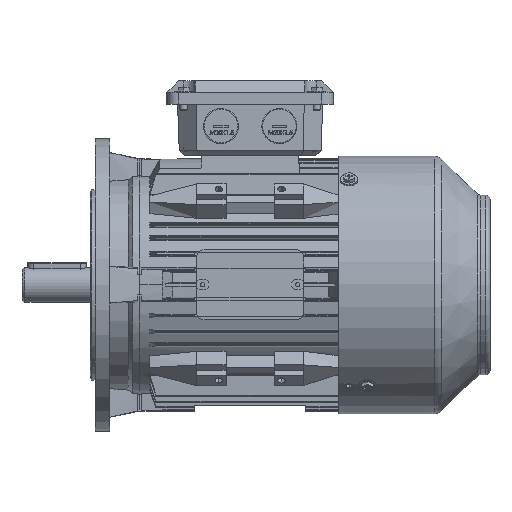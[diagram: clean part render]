
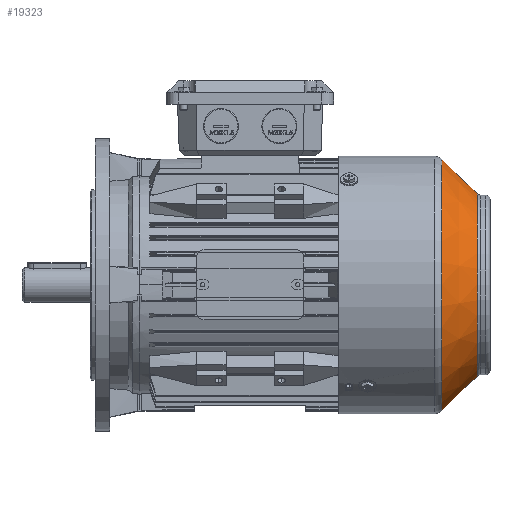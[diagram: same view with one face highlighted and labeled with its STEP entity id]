
A CAD part, top view. The second image highlights one B-rep face of the part: STEP entity #19323.
In plain terms, the highlighted conical face has half-angle 44.465 degrees and reference radius 62.359 mm.
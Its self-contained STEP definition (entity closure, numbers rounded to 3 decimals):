
#955 = AXIS2_PLACEMENT_3D ( 'NONE', #50495, #36515, #35398 ) ;
#1405 = EDGE_CURVE ( 'NONE', #69599, #88805, #4846, .T. ) ;
#1989 = AXIS2_PLACEMENT_3D ( 'NONE', #64781, #72261, #2224 ) ;
#2084 = CARTESIAN_POINT ( 'NONE',  ( 159.84, -1.659, 0. ) ) ;
#2224 = DIRECTION ( 'NONE',  ( 0., 1., -0.002 ) ) ;
#4340 = CARTESIAN_POINT ( 'NONE',  ( 135.757, 84.337, -0.213 ) ) ;
#4846 = LINE ( 'NONE', #84028, #77451 ) ;
#7170 = ORIENTED_EDGE ( 'NONE', *, *, #49737, .F. ) ;
#9524 = FACE_OUTER_BOUND ( 'NONE', #105111, .T. ) ;
#14150 = AXIS2_PLACEMENT_3D ( 'NONE', #2084, #54349, #46886 ) ;
#15429 = EDGE_CURVE ( 'NONE', #36352, #103383, #80246, .T. ) ;
#18111 = EDGE_CURVE ( 'NONE', #69599, #36352, #39888, .T. ) ;
#19323 = ADVANCED_FACE ( 'NONE', ( #9524 ), #50470, .T. ) ;
#29895 = VECTOR ( 'NONE', #81952, 1000. ) ;
#30294 = ORIENTED_EDGE ( 'NONE', *, *, #18111, .T. ) ;
#35398 = DIRECTION ( 'NONE',  ( 0., 1., -0.002 ) ) ;
#36352 = VERTEX_POINT ( 'NONE', #105624 ) ;
#36515 = DIRECTION ( 'NONE',  ( -1., 0., 0. ) ) ;
#39888 = CIRCLE ( 'NONE', #14150, 62.359 ) ;
#43145 = DIRECTION ( 'NONE',  ( -0.714, -0.7, 0.002 ) ) ;
#45816 = CARTESIAN_POINT ( 'NONE',  ( 159.84, 60.7, -0.154 ) ) ;
#46886 = DIRECTION ( 'NONE',  ( 0., 1., -0.002 ) ) ;
#49737 = EDGE_CURVE ( 'NONE', #88805, #103383, #71619, .T. ) ;
#50470 = CONICAL_SURFACE ( 'NONE', #955, 62.359, 0.776 ) ;
#50495 = CARTESIAN_POINT ( 'NONE',  ( 159.84, -1.659, 0. ) ) ;
#54349 = DIRECTION ( 'NONE',  ( -1., 0., 0. ) ) ;
#60739 = CARTESIAN_POINT ( 'NONE',  ( 159.84, -64.017, 0.154 ) ) ;
#61680 = ORIENTED_EDGE ( 'NONE', *, *, #1405, .F. ) ;
#64781 = CARTESIAN_POINT ( 'NONE',  ( 135.757, -1.659, 0. ) ) ;
#69599 = VERTEX_POINT ( 'NONE', #60739 ) ;
#71619 = CIRCLE ( 'NONE', #1989, 85.996 ) ;
#72261 = DIRECTION ( 'NONE',  ( -1., 0., 0. ) ) ;
#77451 = VECTOR ( 'NONE', #43145, 1000. ) ;
#80246 = LINE ( 'NONE', #45816, #29895 ) ;
#81952 = DIRECTION ( 'NONE',  ( -0.714, 0.7, -0.002 ) ) ;
#82845 = CARTESIAN_POINT ( 'NONE',  ( 135.757, -87.654, 0.213 ) ) ;
#84028 = CARTESIAN_POINT ( 'NONE',  ( 159.84, -64.017, 0.154 ) ) ;
#88805 = VERTEX_POINT ( 'NONE', #82845 ) ;
#89606 = ORIENTED_EDGE ( 'NONE', *, *, #15429, .T. ) ;
#103383 = VERTEX_POINT ( 'NONE', #4340 ) ;
#105111 = EDGE_LOOP ( 'NONE', ( #61680, #30294, #89606, #7170 ) ) ;
#105624 = CARTESIAN_POINT ( 'NONE',  ( 159.84, 60.7, -0.154 ) ) ;
